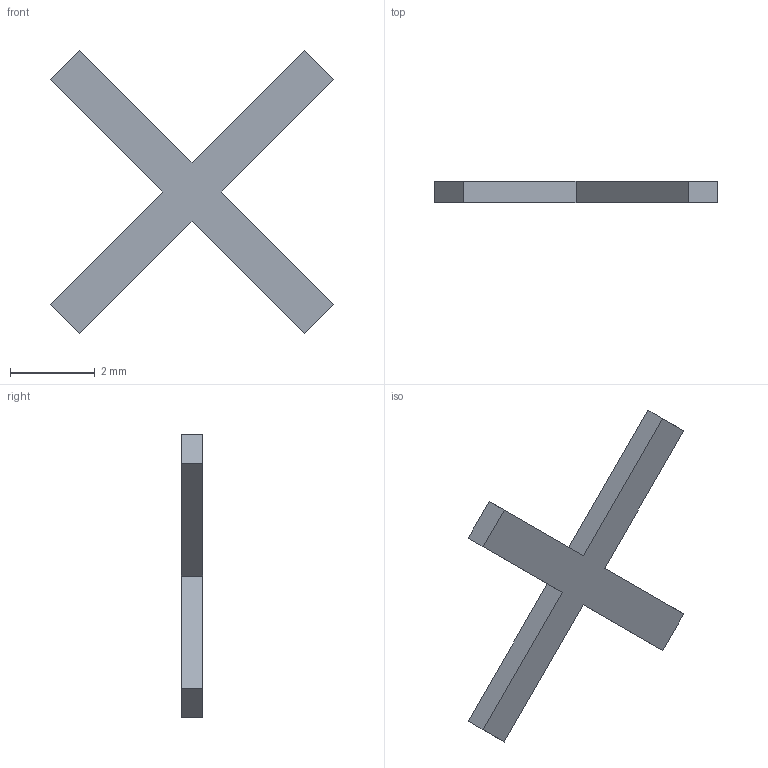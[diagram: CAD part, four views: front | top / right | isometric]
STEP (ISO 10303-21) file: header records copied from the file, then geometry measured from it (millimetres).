
FILE_DESCRIPTION(/* description */ ('STEP AP242','CAx-IF Rec.Pracs.---Representation and Presentation of Product Manufacturing Information (PMI)---4.0---2014-10-13','CAx-IF Rec.Pracs.---3D Tessellated Geometry---0.4---2014-09-14','2;1'),/* implementation_level */ '2;1');
FILE_NAME(/* name */ '643bef4944065c201b04dc03',/* time_stamp */ '2023-04-16T12:51:21+00:00',/* author */ (''),/* organization */ (''),/* preprocessor_version */ 'ST-DEVELOPER v18.102',/* originating_system */ ' ',/* authorisation */ ' ');
FILE_SCHEMA (('AP242_MANAGED_MODEL_BASED_3D_ENGINEERING_MIM_LF { 1 0 10303 442 1 1 4 }'));
Length unit declared in the file: metre
Products named in the file (1): X_Symbol
Bounding box: 6.71 x 0.5 x 6.71 mm (x, y, z)
Volume: 8 mm3; surface area: 48.9 mm2
Topology: 1 solids, 1 shells, 14 faces, 36 edges, 24 vertices
Faces by surface type: plane 14
Entity records: 442 total; most frequent: CARTESIAN_POINT 75, ORIENTED_EDGE 72, DIRECTION 66, EDGE_CURVE 36, LINE 36, VECTOR 36, VERTEX_POINT 24, AXIS2_PLACEMENT_3D 15
